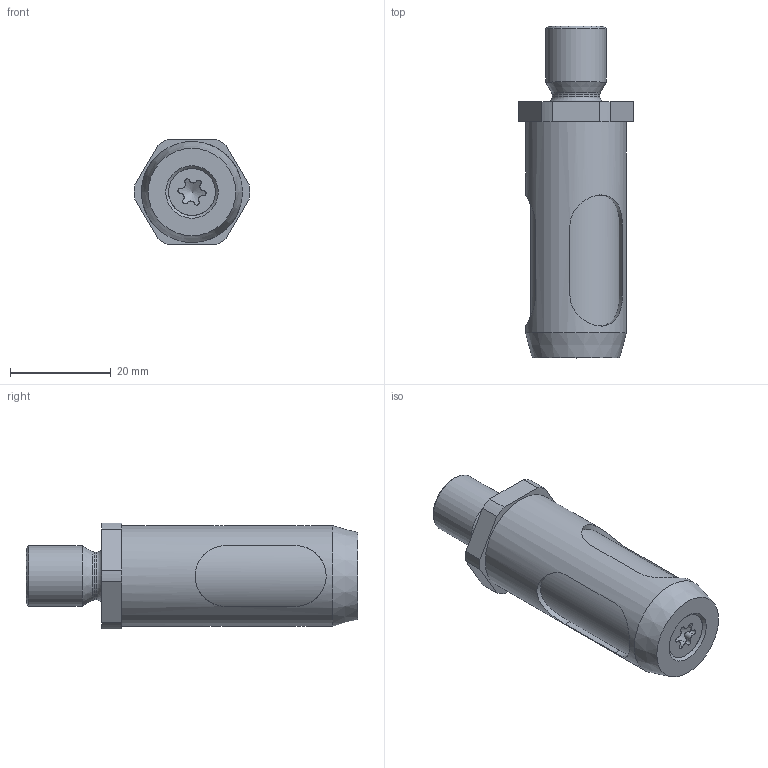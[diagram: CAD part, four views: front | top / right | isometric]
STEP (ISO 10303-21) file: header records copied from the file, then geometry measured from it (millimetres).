
FILE_DESCRIPTION(/* description */ (''),/* implementation_level */ '2;1');
FILE_NAME(/* name */ '\\dc01\daten\CAD\Standard\Daten\3D-Datenbank\GI\GIS\4 - 3D-CAD-Daten GIS 004-020\G-GIS020\G-GIS020_Rev.1.02.stp',/* time_stamp */ '2022-11-29T16:07:31+01:00',/* author */ ('ysplieth'),/* organization */ (''),/* preprocessor_version */ 'ST-DEVELOPER v17',/* originating_system */ 'Autodesk Inventor 2018',/* authorisation */ '');
FILE_SCHEMA (('AUTOMOTIVE_DESIGN { 1 0 10303 214 3 1 1 }'));
Length unit declared in the file: millimetre
Products named in the file (1): Bauteil13
Bounding box: 22.99 x 65.8 x 21 mm (x, y, z)
Volume: 15555.1 mm3; surface area: 9777.4 mm2
Topology: 1 solids, 4 shells, 78 faces, 216 edges, 149 vertices
Faces by surface type: cylinder 41, plane 23, cone 11, torus 3
Full cylindrical faces by diameter (mm): 4 x2, 4.134 x2, 5 x1, 5.5 x1, 9.3 x1, 9.4 x1, 12 x1, 15.8 x1, 16 x1, 18 x2, 20 x1
Entity records: 3202 total; most frequent: CARTESIAN_POINT 1054, ORIENTED_EDGE 426, DIRECTION 422, EDGE_CURVE 213, AXIS2_PLACEMENT_3D 167, VERTEX_POINT 149, EDGE_LOOP 92, LINE 88
